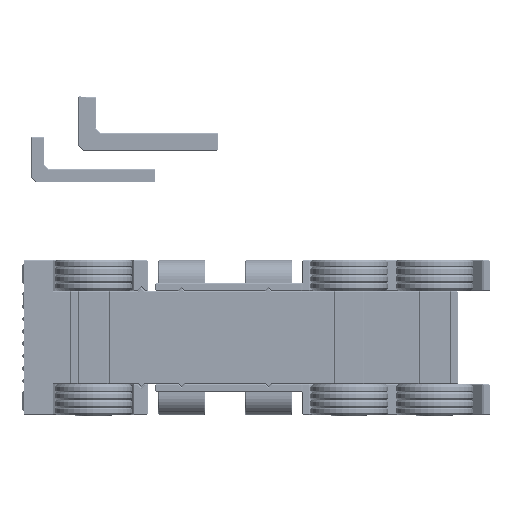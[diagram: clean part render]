
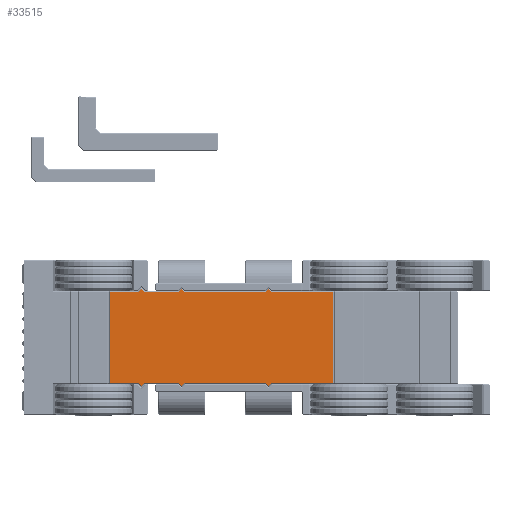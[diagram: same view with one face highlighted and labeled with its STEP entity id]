
A CAD part, front view. The second image highlights one B-rep face of the part: STEP entity #33515.
In plain terms, the highlighted planar face has unit normal (0, -1, 0).
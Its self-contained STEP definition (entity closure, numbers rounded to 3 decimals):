
#576=PLANE('',#35813);
#1941=FACE_OUTER_BOUND('',#4048,.T.);
#4048=EDGE_LOOP('',(#23299,#23300,#23301,#23302,#23303,#23304,#23305,#23306,
#23307,#23308,#23309,#23310,#23311,#23312,#23313,#23314,#23315,#23316,#23317,
#23318,#23319,#23320));
#7881=LINE('',#51243,#11236);
#7883=LINE('',#51247,#11238);
#7909=LINE('',#51300,#11264);
#7911=LINE('',#51304,#11266);
#7926=LINE('',#51335,#11281);
#7928=LINE('',#51339,#11283);
#7932=LINE('',#51348,#11287);
#7934=LINE('',#51352,#11289);
#7963=LINE('',#51409,#11318);
#7980=LINE('',#51444,#11335);
#7983=LINE('',#51450,#11338);
#7984=LINE('',#51453,#11339);
#7987=LINE('',#51459,#11342);
#7988=LINE('',#51461,#11343);
#7993=LINE('',#55069,#11348);
#7998=LINE('',#55077,#11353);
#7999=LINE('',#55080,#11354);
#8000=LINE('',#55082,#11355);
#8001=LINE('',#55084,#11356);
#8002=LINE('',#55086,#11357);
#8003=LINE('',#55087,#11358);
#8004=LINE('',#55088,#11359);
#11236=VECTOR('',#38607,10.);
#11238=VECTOR('',#38611,10.);
#11264=VECTOR('',#38655,10.);
#11266=VECTOR('',#38659,10.);
#11281=VECTOR('',#38684,10.);
#11283=VECTOR('',#38688,10.);
#11287=VECTOR('',#38694,10.);
#11289=VECTOR('',#38698,10.);
#11318=VECTOR('',#38743,10.);
#11335=VECTOR('',#38768,10.);
#11338=VECTOR('',#38775,10.);
#11339=VECTOR('',#38778,10.);
#11342=VECTOR('',#38785,10.);
#11343=VECTOR('',#38788,10.);
#11348=VECTOR('',#38815,10.);
#11353=VECTOR('',#38822,10.);
#11354=VECTOR('',#38825,10.);
#11355=VECTOR('',#38826,10.);
#11356=VECTOR('',#38827,10.);
#11357=VECTOR('',#38828,10.);
#11358=VECTOR('',#38829,10.);
#11359=VECTOR('',#38830,10.);
#14691=VERTEX_POINT('',#51240);
#14692=VERTEX_POINT('',#51242);
#14693=VERTEX_POINT('',#51246);
#14710=VERTEX_POINT('',#51297);
#14711=VERTEX_POINT('',#51299);
#14712=VERTEX_POINT('',#51303);
#14722=VERTEX_POINT('',#51332);
#14723=VERTEX_POINT('',#51334);
#14724=VERTEX_POINT('',#51338);
#14727=VERTEX_POINT('',#51345);
#14728=VERTEX_POINT('',#51347);
#14729=VERTEX_POINT('',#51351);
#14763=VERTEX_POINT('',#51443);
#14764=VERTEX_POINT('',#51448);
#14765=VERTEX_POINT('',#51452);
#14766=VERTEX_POINT('',#51457);
#14773=VERTEX_POINT('',#55067);
#14774=VERTEX_POINT('',#55068);
#14777=VERTEX_POINT('',#55079);
#14778=VERTEX_POINT('',#55081);
#14779=VERTEX_POINT('',#55083);
#14780=VERTEX_POINT('',#55085);
#17845=EDGE_CURVE('',#14691,#14692,#7881,.T.);
#17847=EDGE_CURVE('',#14692,#14693,#7883,.T.);
#17873=EDGE_CURVE('',#14710,#14711,#7909,.T.);
#17875=EDGE_CURVE('',#14711,#14712,#7911,.T.);
#17890=EDGE_CURVE('',#14722,#14723,#7926,.T.);
#17892=EDGE_CURVE('',#14723,#14724,#7928,.T.);
#17896=EDGE_CURVE('',#14727,#14728,#7932,.T.);
#17898=EDGE_CURVE('',#14728,#14729,#7934,.T.);
#17928=EDGE_CURVE('',#14712,#14691,#7963,.T.);
#17946=EDGE_CURVE('',#14724,#14763,#7980,.T.);
#17949=EDGE_CURVE('',#14764,#14710,#7983,.T.);
#17950=EDGE_CURVE('',#14693,#14765,#7984,.T.);
#17953=EDGE_CURVE('',#14766,#14727,#7987,.T.);
#17954=EDGE_CURVE('',#14729,#14722,#7988,.T.);
#17979=EDGE_CURVE('',#14773,#14774,#7993,.T.);
#17984=EDGE_CURVE('',#14763,#14773,#7998,.T.);
#17985=EDGE_CURVE('',#14777,#14764,#7999,.T.);
#17986=EDGE_CURVE('',#14778,#14777,#8000,.T.);
#17987=EDGE_CURVE('',#14779,#14778,#8001,.T.);
#17988=EDGE_CURVE('',#14780,#14779,#8002,.T.);
#17989=EDGE_CURVE('',#14774,#14780,#8003,.T.);
#17990=EDGE_CURVE('',#14765,#14766,#8004,.T.);
#23299=ORIENTED_EDGE('',*,*,#17928,.F.);
#23300=ORIENTED_EDGE('',*,*,#17875,.F.);
#23301=ORIENTED_EDGE('',*,*,#17873,.F.);
#23302=ORIENTED_EDGE('',*,*,#17949,.F.);
#23303=ORIENTED_EDGE('',*,*,#17985,.F.);
#23304=ORIENTED_EDGE('',*,*,#17986,.F.);
#23305=ORIENTED_EDGE('',*,*,#17987,.F.);
#23306=ORIENTED_EDGE('',*,*,#17988,.F.);
#23307=ORIENTED_EDGE('',*,*,#17989,.F.);
#23308=ORIENTED_EDGE('',*,*,#17979,.F.);
#23309=ORIENTED_EDGE('',*,*,#17984,.F.);
#23310=ORIENTED_EDGE('',*,*,#17946,.F.);
#23311=ORIENTED_EDGE('',*,*,#17892,.F.);
#23312=ORIENTED_EDGE('',*,*,#17890,.F.);
#23313=ORIENTED_EDGE('',*,*,#17954,.F.);
#23314=ORIENTED_EDGE('',*,*,#17898,.F.);
#23315=ORIENTED_EDGE('',*,*,#17896,.F.);
#23316=ORIENTED_EDGE('',*,*,#17953,.F.);
#23317=ORIENTED_EDGE('',*,*,#17990,.F.);
#23318=ORIENTED_EDGE('',*,*,#17950,.F.);
#23319=ORIENTED_EDGE('',*,*,#17847,.F.);
#23320=ORIENTED_EDGE('',*,*,#17845,.F.);
#33515=ADVANCED_FACE('',(#1941),#576,.F.);
#35813=AXIS2_PLACEMENT_3D('',#55078,#38823,#38824);
#38607=DIRECTION('',(0.707,0.,0.707));
#38611=DIRECTION('',(0.707,0.,-0.707));
#38655=DIRECTION('',(0.706,0.,0.708));
#38659=DIRECTION('',(0.707,0.,-0.707));
#38684=DIRECTION('',(-0.707,0.,-0.707));
#38688=DIRECTION('',(-0.707,0.,0.707));
#38694=DIRECTION('',(-0.707,0.,-0.707));
#38698=DIRECTION('',(-0.707,0.,0.707));
#38743=DIRECTION('',(1.,0.,0.));
#38768=DIRECTION('',(-1.,0.,0.));
#38775=DIRECTION('',(1.,0.,0.));
#38778=DIRECTION('',(1.,0.,0.));
#38785=DIRECTION('',(-1.,0.,0.));
#38788=DIRECTION('',(-1.,0.,0.));
#38815=DIRECTION('',(-0.707,0.,0.707));
#38822=DIRECTION('',(-0.707,0.,-0.707));
#38823=DIRECTION('center_axis',(0.,1.,0.));
#38824=DIRECTION('ref_axis',(1.,0.,0.));
#38825=DIRECTION('',(0.707,0.,-0.707));
#38826=DIRECTION('',(0.707,0.,0.707));
#38827=DIRECTION('',(1.,0.,0.));
#38828=DIRECTION('',(0.,0.,1.));
#38829=DIRECTION('',(-1.,0.,0.));
#38830=DIRECTION('',(0.,0.,-1.));
#51240=CARTESIAN_POINT('',(1.207,0.,29.5));
#51242=CARTESIAN_POINT('',(3.,0.,31.293));
#51243=CARTESIAN_POINT('',(-6.646,0.,21.646));
#51246=CARTESIAN_POINT('',(4.793,0.,29.5));
#51247=CARTESIAN_POINT('',(9.896,0.,24.396));
#51297=CARTESIAN_POINT('',(-54.789,0.,29.5));
#51299=CARTESIAN_POINT('',(-53.,0.,31.292));
#51300=CARTESIAN_POINT('',(-48.667,0.,35.633));
#51303=CARTESIAN_POINT('',(-51.208,0.,29.5));
#51304=CARTESIAN_POINT('',(-32.111,0.,10.392));
#51332=CARTESIAN_POINT('',(-51.209,0.,-29.5));
#51334=CARTESIAN_POINT('',(-53.,0.,-31.293));
#51335=CARTESIAN_POINT('',(-30.869,0.,-9.138));
#51338=CARTESIAN_POINT('',(-54.792,0.,-29.5));
#51339=CARTESIAN_POINT('',(-47.401,0.,-36.894));
#51345=CARTESIAN_POINT('',(4.793,0.,-29.5));
#51347=CARTESIAN_POINT('',(3.,0.,-31.293));
#51348=CARTESIAN_POINT('',(11.146,0.,-23.146));
#51351=CARTESIAN_POINT('',(1.207,0.,-29.5));
#51352=CARTESIAN_POINT('',(-5.396,0.,-22.896));
#51409=CARTESIAN_POINT('',(-62.5,0.,29.5));
#51443=CARTESIAN_POINT('',(-77.207,0.,-29.5));
#51444=CARTESIAN_POINT('',(62.5,0.,-29.5));
#51448=CARTESIAN_POINT('',(-77.207,0.,29.5));
#51450=CARTESIAN_POINT('',(-62.5,0.,29.5));
#51452=CARTESIAN_POINT('',(44.5,0.,29.5));
#51453=CARTESIAN_POINT('',(-62.5,0.,29.5));
#51457=CARTESIAN_POINT('',(44.5,0.,-29.5));
#51459=CARTESIAN_POINT('',(62.5,0.,-29.5));
#51461=CARTESIAN_POINT('',(62.5,0.,-29.5));
#55067=CARTESIAN_POINT('',(-79.,0.,-31.293));
#55068=CARTESIAN_POINT('',(-80.793,0.,-29.5));
#55069=CARTESIAN_POINT('',(-68.146,0.,-42.146));
#55077=CARTESIAN_POINT('',(-51.604,0.,-3.896));
#55078=CARTESIAN_POINT('Origin',(0.,0.,0.));
#55079=CARTESIAN_POINT('',(-79.,0.,31.293));
#55080=CARTESIAN_POINT('',(-50.354,0.,2.646));
#55081=CARTESIAN_POINT('',(-80.793,0.,29.5));
#55082=CARTESIAN_POINT('',(-66.896,0.,43.396));
#55083=CARTESIAN_POINT('',(-99.5,0.,29.5));
#55084=CARTESIAN_POINT('',(-62.5,0.,29.5));
#55085=CARTESIAN_POINT('',(-99.5,0.,-29.5));
#55086=CARTESIAN_POINT('',(-99.5,0.,15.));
#55087=CARTESIAN_POINT('',(62.5,0.,-29.5));
#55088=CARTESIAN_POINT('',(44.5,0.,15.));
